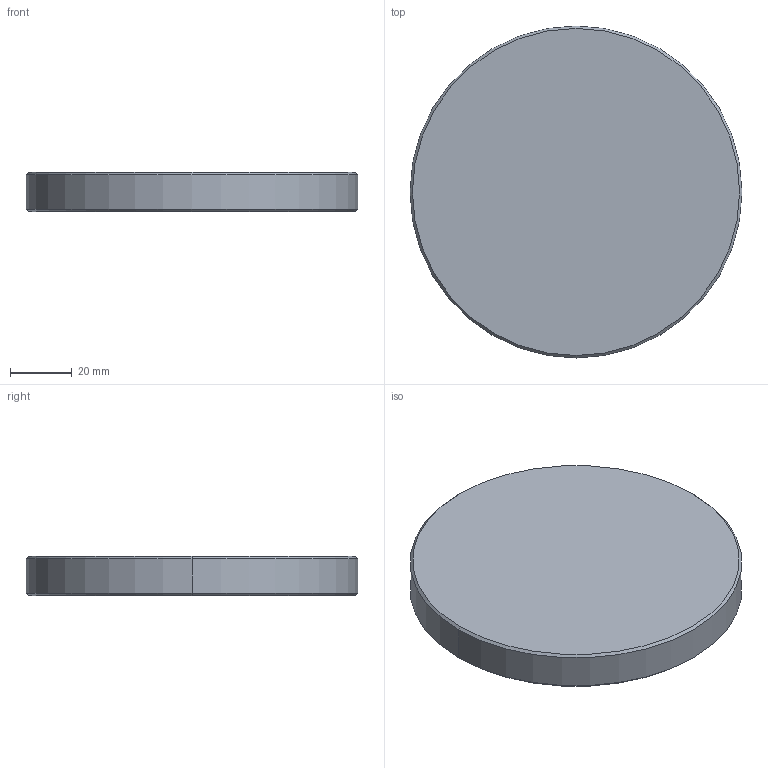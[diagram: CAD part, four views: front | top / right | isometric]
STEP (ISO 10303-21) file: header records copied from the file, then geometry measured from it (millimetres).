
FILE_DESCRIPTION((''),'2;1');
FILE_NAME('RMC-6005','2007-09-25T',('glafferty'),('Pleasant Precision, Inc. (419)675-0556'),'PRO/ENGINEER BY PARAMETRIC TECHNOLOGY CORPORATION, 2006080','PRO/ENGINEER BY PARAMETRIC TECHNOLOGY CORPORATION, 2006080','');
FILE_SCHEMA(('CONFIG_CONTROL_DESIGN'));
Length unit declared in the file: inch
Products named in the file (1): RMC-6005
Bounding box: 107.95 x 107.95 x 12.7 mm (x, y, z)
Volume: 116026.3 mm3; surface area: 22297.4 mm2
Topology: 1 solids, 1 shells, 8 faces, 14 edges, 8 vertices
Faces by surface type: cone 4, plane 2, cylinder 2
Entity records: 234 total; most frequent: DIRECTION 38, CARTESIAN_POINT 30, ORIENTED_EDGE 28, AXIS2_PLACEMENT_3D 16, EDGE_CURVE 14, VERTEX_POINT 8, EDGE_LOOP 8, FACE_OUTER_BOUND 8
